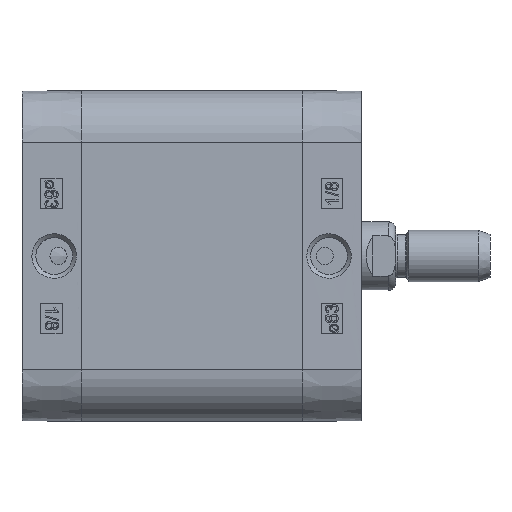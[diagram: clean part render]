
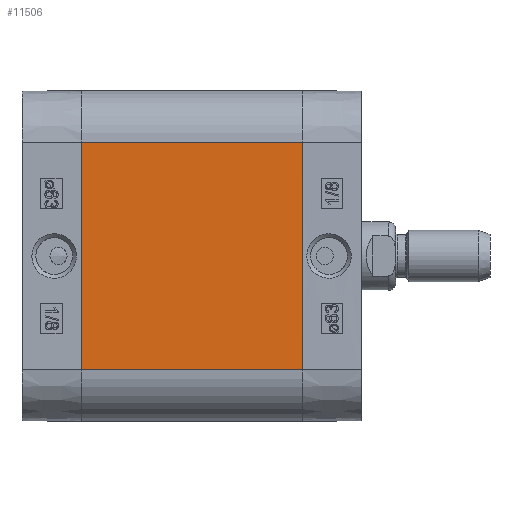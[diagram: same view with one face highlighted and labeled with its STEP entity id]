
A CAD part, left-side view. The second image highlights one B-rep face of the part: STEP entity #11506.
In plain terms, the highlighted planar face has unit normal (-1, 0, 0).
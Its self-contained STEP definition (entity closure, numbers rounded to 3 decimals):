
#5836=CARTESIAN_POINT('',(-38.5,-51.5,26.5));
#5837=VERTEX_POINT('',#5836);
#5844=CARTESIAN_POINT('',(-38.5,-51.5,-26.5));
#5845=VERTEX_POINT('',#5844);
#5846=CARTESIAN_POINT('',(-38.5,-51.5,-26.5));
#5847=DIRECTION('',(0.0,0.0,1.0));
#5848=VECTOR('',#5847,53.0);
#5849=LINE('',#5846,#5848);
#5850=EDGE_CURVE('',#5845,#5837,#5849,.T.);
#11464=CARTESIAN_POINT('',(-38.5,0.0,-26.5));
#11465=VERTEX_POINT('',#11464);
#11466=CARTESIAN_POINT('',(-38.5,0.0,-26.5));
#11467=DIRECTION('',(0.0,-1.0,0.0));
#11468=VECTOR('',#11467,51.5);
#11469=LINE('',#11466,#11468);
#11470=EDGE_CURVE('',#11465,#5845,#11469,.T.);
#11483=CARTESIAN_POINT('',(-38.5,0.0,-26.5));
#11484=DIRECTION('',(-1.0,0.0,0.0));
#11485=DIRECTION('',(0.0,0.0,1.0));
#11486=AXIS2_PLACEMENT_3D('',#11483,#11484,#11485);
#11487=PLANE('',#11486);
#11488=ORIENTED_EDGE('',*,*,#5850,.T.);
#11489=CARTESIAN_POINT('',(-38.5,0.0,26.5));
#11490=VERTEX_POINT('',#11489);
#11491=CARTESIAN_POINT('',(-38.5,0.0,26.5));
#11492=DIRECTION('',(0.0,-1.0,0.0));
#11493=VECTOR('',#11492,51.5);
#11494=LINE('',#11491,#11493);
#11495=EDGE_CURVE('',#11490,#5837,#11494,.T.);
#11496=ORIENTED_EDGE('',*,*,#11495,.F.);
#11497=CARTESIAN_POINT('',(-38.5,0.0,-26.5));
#11498=DIRECTION('',(0.0,0.0,1.0));
#11499=VECTOR('',#11498,53.0);
#11500=LINE('',#11497,#11499);
#11501=EDGE_CURVE('',#11465,#11490,#11500,.T.);
#11502=ORIENTED_EDGE('',*,*,#11501,.F.);
#11503=ORIENTED_EDGE('',*,*,#11470,.T.);
#11504=EDGE_LOOP('',(#11488,#11496,#11502,#11503));
#11505=FACE_OUTER_BOUND('',#11504,.T.);
#11506=ADVANCED_FACE('',(#11505),#11487,.T.);
